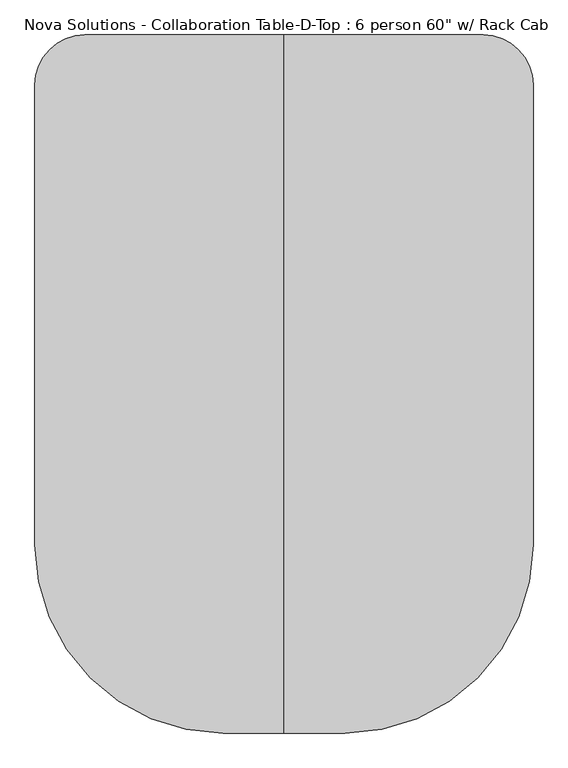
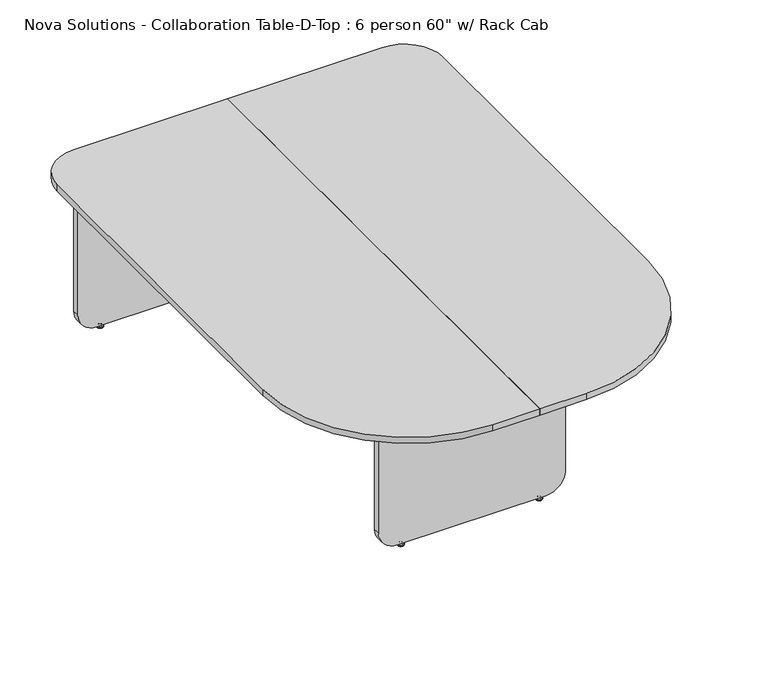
"""IFC4 building model written with IfcOpenShell, lengths in millimetres: furniture geometry."""

from ifc_helpers import new_model, si_unit, point, frame, frame_2d, origin, place, context, project, spatial, polyline, circle_curve, ellipse_curve, trimmed, segment, composite_curve, outline, extrude, source, transform, mapped, element, save
from ifc_brep_helpers import plane_surface, cylinder_surface, revolved_surface, advanced_brep


def furniture_0e6fd3ea(model_context):
    return source(origin(), model_context, "Body", "SolidModel", [
        extrude(outline(polyline([(-261.75, 1038.2), (-245.55, 1038.2), (-245.55, 510.8), (-261.75, 510.8), (-261.75, 1038.2)])), frame((0.0, 0.0, 181.85), z_axis=(0.0, 0.0, 1.0), x_axis=(1.0, 0.0, 0.0)), (0.0, 0.0, 1.0), 553.0),
        extrude(outline(polyline([(245.55, 1038.2), (261.75, 1038.2), (261.75, 510.8), (245.55, 510.8), (245.55, 1038.2)])), frame((0.0, 0.0, 181.85), z_axis=(0.0, 0.0, 1.0), x_axis=(1.0, 0.0, 0.0)), (0.0, 0.0, 1.0), 553.0),
        extrude(outline(polyline([(-136.57, 485.1), (-136.57, -576.1), (-152.77, -576.1), (-152.77, 485.1), (-136.57, 485.1)])), frame((0.0, 0.0, 181.85), z_axis=(0.0, 0.0, 1.0), x_axis=(1.0, 0.0, 0.0)), (0.0, 0.0, 1.0), 553.0),
        extrude(outline(polyline([(136.57, 485.1), (152.77, 485.1), (152.77, -576.1), (136.57, -576.1), (136.57, 485.1)])), frame((0.0, 0.0, 181.85), z_axis=(0.0, 0.0, 1.0), x_axis=(1.0, 0.0, 0.0)), (0.0, 0.0, 1.0), 553.0),
        advanced_brep(
        [(513.4578125, 1057.7276506, 11.1125), (513.4578125, 1044.3723494, 11.1125), (513.4578125, 1051.05, 11.1125), (513.4578125, 1057.7276506, 9.525), (513.4578125, 1044.3723494, 9.525), (513.4578125, 1062.9355135, 4.7748687), (513.4578125, 1039.1644865, 4.7748687), (513.4578125, 1063.7966506, 3.989419), (513.4578125, 1038.3033494, 3.989419), (513.4578125, 1063.7966506, 3.175), (513.4578125, 1038.3033494, 3.175), (513.4578125, 1062.9459119, 0.0), (513.4578125, 1039.1540881, 0.0), (513.4578125, 1051.05, 0.0)],
        [
            (0, 1, circle_curve(frame((513.4578125, 1051.05, 11.1125), z_axis=(0.0, 0.0, 1.0), x_axis=(0.0, -1.0, 0.0)), 6.6776506)),
            (1, 2),
            (2, 0),
            (1, 0, circle_curve(frame((513.4578125, 1051.05, 11.1125), z_axis=(0.0, 0.0, 1.0), x_axis=(0.0, -1.0, 0.0)), 6.6776506)),
            (3, 4, circle_curve(frame((513.4578125, 1051.05, 9.525), z_axis=(0.0, 0.0, 1.0), x_axis=(0.0, -1.0, 0.0)), 6.6776506)),
            (4, 1),
            (0, 3),
            (4, 3, circle_curve(frame((513.4578125, 1051.05, 9.525), z_axis=(0.0, 0.0, 1.0), x_axis=(0.0, -1.0, 0.0)), 6.6776506)),
            (5, 6, circle_curve(frame((513.4578125, 1051.05, 4.7748687), z_axis=(0.0, 0.0, 1.0), x_axis=(0.0, -1.0, 0.0)), 11.8855135)),
            (6, 4, circle_curve(frame((513.4578125, 1038.1179373, 11.1521822), z_axis=(1.0, 0.0, 0.0), x_axis=(0.0, 1.0, 0.0)), 6.462615)),
            (3, 5, circle_curve(frame((513.4578125, 1063.9820627, 11.1521822), z_axis=(1.0, 0.0, 0.0), x_axis=(0.0, -1.0, 0.0)), 6.462615)),
            (6, 5, circle_curve(frame((513.4578125, 1051.05, 4.7748687), z_axis=(0.0, 0.0, 1.0), x_axis=(0.0, -1.0, 0.0)), 11.8855135)),
            (7, 8, circle_curve(frame((513.4578125, 1051.05, 3.989419), z_axis=(0.0, 0.0, 1.0), x_axis=(0.0, -1.0, 0.0)), 12.7466506)),
            (8, 6, circle_curve(frame((513.4578125, 1039.3375368, 3.7203591), z_axis=(-1.0, 0.0, 0.0), x_axis=(0.0, 1.0, 0.0)), 1.0686145)),
            (5, 7, circle_curve(frame((513.4578125, 1062.7624632, 3.7203591), z_axis=(-1.0, 0.0, 0.0), x_axis=(0.0, -1.0, 0.0)), 1.0686145)),
            (8, 7, circle_curve(frame((513.4578125, 1051.05, 3.989419), z_axis=(0.0, 0.0, 1.0), x_axis=(0.0, -1.0, 0.0)), 12.7466506)),
            (9, 10, circle_curve(frame((513.4578125, 1051.05, 3.175), z_axis=(0.0, 0.0, 1.0), x_axis=(0.0, -1.0, 0.0)), 12.7466506)),
            (10, 8),
            (7, 9),
            (10, 9, circle_curve(frame((513.4578125, 1051.05, 3.175), z_axis=(0.0, 0.0, 1.0), x_axis=(0.0, -1.0, 0.0)), 12.7466506)),
            (11, 12, circle_curve(frame((513.4578125, 1051.05, 0.0), z_axis=(0.0, 0.0, 1.0), x_axis=(0.0, -1.0, 0.0)), 11.8959119)),
            (12, 10),
            (9, 11),
            (12, 11, circle_curve(frame((513.4578125, 1051.05, 0.0), z_axis=(0.0, 0.0, 1.0), x_axis=(0.0, -1.0, 0.0)), 11.8959119)),
            (13, 12),
            (11, 13),
        ],
        [
            plane_surface(frame((513.4578125, 1051.05, 11.1125), z_axis=(0.0, 0.0, 1.0), x_axis=(0.0, -1.0, 0.0))),
            cylinder_surface(frame((513.4578125, 1051.05, 43.2095994), z_axis=(0.0, 0.0, -1.0), x_axis=(0.0, -1.0, 0.0)), 6.6776506),
            revolved_surface(trimmed(ellipse_curve(frame((513.4578125, 1038.1179373, 11.1521822), z_axis=(-1.0, 0.0, 0.0), x_axis=(0.0, 1.0, 0.0)), 6.462615, 6.462615), [point((513.4578125, 1044.3723494, 9.525))], [point((513.4578125, 1039.1644865, 4.7748687))], True, "CARTESIAN"), (513.4578125, 1051.05, 43.2095994), (0.0, 0.0, -1.0)),
            revolved_surface(trimmed(ellipse_curve(frame((513.4578125, 1039.3375368, 3.7203591), z_axis=(1.0, 0.0, 0.0), x_axis=(0.0, 1.0, 0.0)), 1.0686145, 1.0686145), [point((513.4578125, 1039.1644865, 4.7748687))], [point((513.4578125, 1038.3033494, 3.989419))], True, "CARTESIAN"), (513.4578125, 1051.05, 43.2095994), (0.0, 0.0, -1.0)),
            cylinder_surface(frame((513.4578125, 1051.05, 43.2095994), z_axis=(0.0, 0.0, -1.0), x_axis=(0.0, -1.0, 0.0)), 12.7466506),
            revolved_surface(polyline([(513.4578125, 1038.3033494, 3.175), (513.4578125, 1039.1540881, 0.0)]), (513.4578125, 1051.05, 43.2095994), (0.0, 0.0, -1.0)),
            plane_surface(frame((513.4578125, 1051.05, 0.0), z_axis=(0.0, 0.0, -1.0), x_axis=(0.0, -1.0, 0.0))),
        ],
        [
            (0, [[1, 2, 3]]),
            (0, [[4, -3, -2]]),
            (1, [[5, 6, -1, 7]]),
            (1, [[8, -7, -4, -6]]),
            (2, [[9, 10, -5, 11]]),
            (2, [[12, -11, -8, -10]]),
            (3, [[13, 14, -9, 15]]),
            (3, [[16, -15, -12, -14]]),
            (4, [[17, 18, -13, 19]]),
            (4, [[20, -19, -16, -18]]),
            (5, [[21, 22, -17, 23]]),
            (5, [[24, -23, -20, -22]]),
            (6, [[25, -21, 26]]),
            (6, [[-26, -24, -25]]),
        ],
    ),
        advanced_brep(
        [(-513.4578125, 1057.7276506, 11.1125), (-513.4578125, 1044.3723494, 11.1125), (-513.4578125, 1051.05, 11.1125), (-513.4578125, 1057.7276506, 9.525), (-513.4578125, 1044.3723494, 9.525), (-513.4578125, 1062.9355135, 4.7748687), (-513.4578125, 1039.1644865, 4.7748687), (-513.4578125, 1063.7966506, 3.989419), (-513.4578125, 1038.3033494, 3.989419), (-513.4578125, 1063.7966506, 3.175), (-513.4578125, 1038.3033494, 3.175), (-513.4578125, 1062.9459119, 0.0), (-513.4578125, 1039.1540881, 0.0), (-513.4578125, 1051.05, 0.0)],
        [
            (0, 1, circle_curve(frame((-513.4578125, 1051.05, 11.1125), z_axis=(0.0, 0.0, 1.0), x_axis=(0.0, -1.0, 0.0)), 6.6776506)),
            (1, 2),
            (2, 0),
            (1, 0, circle_curve(frame((-513.4578125, 1051.05, 11.1125), z_axis=(0.0, 0.0, 1.0), x_axis=(0.0, -1.0, 0.0)), 6.6776506)),
            (3, 4, circle_curve(frame((-513.4578125, 1051.05, 9.525), z_axis=(0.0, 0.0, 1.0), x_axis=(0.0, -1.0, 0.0)), 6.6776506)),
            (4, 1),
            (0, 3),
            (4, 3, circle_curve(frame((-513.4578125, 1051.05, 9.525), z_axis=(0.0, 0.0, 1.0), x_axis=(0.0, -1.0, 0.0)), 6.6776506)),
            (5, 6, circle_curve(frame((-513.4578125, 1051.05, 4.7748687), z_axis=(0.0, 0.0, 1.0), x_axis=(0.0, -1.0, 0.0)), 11.8855135)),
            (6, 4, circle_curve(frame((-513.4578125, 1038.1179373, 11.1521822), z_axis=(1.0, 0.0, 0.0), x_axis=(0.0, 1.0, 0.0)), 6.462615)),
            (3, 5, circle_curve(frame((-513.4578125, 1063.9820627, 11.1521822), z_axis=(1.0, 0.0, 0.0), x_axis=(0.0, -1.0, 0.0)), 6.462615)),
            (6, 5, circle_curve(frame((-513.4578125, 1051.05, 4.7748687), z_axis=(0.0, 0.0, 1.0), x_axis=(0.0, -1.0, 0.0)), 11.8855135)),
            (7, 8, circle_curve(frame((-513.4578125, 1051.05, 3.989419), z_axis=(0.0, 0.0, 1.0), x_axis=(0.0, -1.0, 0.0)), 12.7466506)),
            (8, 6, circle_curve(frame((-513.4578125, 1039.3375368, 3.7203591), z_axis=(-1.0, 0.0, 0.0), x_axis=(0.0, 1.0, 0.0)), 1.0686145)),
            (5, 7, circle_curve(frame((-513.4578125, 1062.7624632, 3.7203591), z_axis=(-1.0, 0.0, 0.0), x_axis=(0.0, -1.0, 0.0)), 1.0686145)),
            (8, 7, circle_curve(frame((-513.4578125, 1051.05, 3.989419), z_axis=(0.0, 0.0, 1.0), x_axis=(0.0, -1.0, 0.0)), 12.7466506)),
            (9, 10, circle_curve(frame((-513.4578125, 1051.05, 3.175), z_axis=(0.0, 0.0, 1.0), x_axis=(0.0, -1.0, 0.0)), 12.7466506)),
            (10, 8),
            (7, 9),
            (10, 9, circle_curve(frame((-513.4578125, 1051.05, 3.175), z_axis=(0.0, 0.0, 1.0), x_axis=(0.0, -1.0, 0.0)), 12.7466506)),
            (11, 12, circle_curve(frame((-513.4578125, 1051.05, 0.0), z_axis=(0.0, 0.0, 1.0), x_axis=(0.0, -1.0, 0.0)), 11.8959119)),
            (12, 10),
            (9, 11),
            (12, 11, circle_curve(frame((-513.4578125, 1051.05, 0.0), z_axis=(0.0, 0.0, 1.0), x_axis=(0.0, -1.0, 0.0)), 11.8959119)),
            (13, 12),
            (11, 13),
        ],
        [
            plane_surface(frame((-513.4578125, 1051.05, 11.1125), z_axis=(0.0, 0.0, 1.0), x_axis=(0.0, -1.0, 0.0))),
            cylinder_surface(frame((-513.4578125, 1051.05, 43.2095994), z_axis=(0.0, 0.0, -1.0), x_axis=(0.0, -1.0, 0.0)), 6.6776506),
            revolved_surface(trimmed(ellipse_curve(frame((-513.4578125, 1038.1179373, 11.1521822), z_axis=(-1.0, 0.0, 0.0), x_axis=(0.0, 1.0, 0.0)), 6.462615, 6.462615), [point((-513.4578125, 1044.3723494, 9.525))], [point((-513.4578125, 1039.1644865, 4.7748687))], True, "CARTESIAN"), (-513.4578125, 1051.05, 43.2095994), (0.0, 0.0, -1.0)),
            revolved_surface(trimmed(ellipse_curve(frame((-513.4578125, 1039.3375368, 3.7203591), z_axis=(1.0, 0.0, 0.0), x_axis=(0.0, 1.0, 0.0)), 1.0686145, 1.0686145), [point((-513.4578125, 1039.1644865, 4.7748687))], [point((-513.4578125, 1038.3033494, 3.989419))], True, "CARTESIAN"), (-513.4578125, 1051.05, 43.2095994), (0.0, 0.0, -1.0)),
            cylinder_surface(frame((-513.4578125, 1051.05, 43.2095994), z_axis=(0.0, 0.0, -1.0), x_axis=(0.0, -1.0, 0.0)), 12.7466506),
            revolved_surface(polyline([(-513.4578125, 1038.3033494, 3.175), (-513.4578125, 1039.1540881, 0.0)]), (-513.4578125, 1051.05, 43.2095994), (0.0, 0.0, -1.0)),
            plane_surface(frame((-513.4578125, 1051.05, 0.0), z_axis=(0.0, 0.0, -1.0), x_axis=(0.0, -1.0, 0.0))),
        ],
        [
            (0, [[1, 2, 3]]),
            (0, [[4, -3, -2]]),
            (1, [[5, 6, -1, 7]]),
            (1, [[8, -7, -4, -6]]),
            (2, [[9, 10, -5, 11]]),
            (2, [[12, -11, -8, -10]]),
            (3, [[13, 14, -9, 15]]),
            (3, [[16, -15, -12, -14]]),
            (4, [[17, 18, -13, 19]]),
            (4, [[20, -19, -16, -18]]),
            (5, [[21, 22, -17, 23]]),
            (5, [[24, -23, -20, -22]]),
            (6, [[25, -21, 26]]),
            (6, [[-26, -24, -25]]),
        ],
    ),
        extrude(outline(composite_curve([segment(polyline([(734.85, 609.5), (734.85, -609.5), (90.15, -609.5)]), True, "CONTINUOUS"), segment(trimmed(circle_curve(frame_2d((90.15, -533.5)), 76.0), [point((90.15, -609.5))], [point((14.15, -533.5))], False, "CARTESIAN"), True, "CONTINUOUS"), segment(polyline([(14.15, -533.5), (14.15, 533.5)]), True, "CONTINUOUS"), segment(trimmed(circle_curve(frame_2d((90.15, 533.5)), 76.0), [point((14.15, 533.5))], [point((90.15, 609.5))], False, "CARTESIAN"), True, "CONTINUOUS"), segment(polyline([(90.15, 609.5), (734.85, 609.5)]), True, "CONTINUOUS")], self_intersect=False)), frame((0.0, 1038.2, 0.0), z_axis=(0.0, 1.0, 0.0), x_axis=(0.0, 0.0, 1.0)), (0.0, 0.0, 1.0), 25.7),
        advanced_brep(
        [(272.9578125, -582.2723494, 11.1125), (272.9578125, -595.6276506, 11.1125), (272.9578125, -588.95, 11.1125), (272.9578125, -582.2723494, 9.525), (272.9578125, -595.6276506, 9.525), (272.9578125, -577.0644865, 4.7748687), (272.9578125, -600.8355135, 4.7748687), (272.9578125, -576.2033494, 3.989419), (272.9578125, -601.6966506, 3.989419), (272.9578125, -576.2033494, 3.175), (272.9578125, -601.6966506, 3.175), (272.9578125, -577.0540881, 0.0), (272.9578125, -600.8459119, 0.0), (272.9578125, -588.95, 0.0)],
        [
            (0, 1, circle_curve(frame((272.9578125, -588.95, 11.1125), z_axis=(0.0, 0.0, 1.0), x_axis=(0.0, -1.0, 0.0)), 6.6776506)),
            (1, 2),
            (2, 0),
            (1, 0, circle_curve(frame((272.9578125, -588.95, 11.1125), z_axis=(0.0, 0.0, 1.0), x_axis=(0.0, -1.0, 0.0)), 6.6776506)),
            (3, 4, circle_curve(frame((272.9578125, -588.95, 9.525), z_axis=(0.0, 0.0, 1.0), x_axis=(0.0, -1.0, 0.0)), 6.6776506)),
            (4, 1),
            (0, 3),
            (4, 3, circle_curve(frame((272.9578125, -588.95, 9.525), z_axis=(0.0, 0.0, 1.0), x_axis=(0.0, -1.0, 0.0)), 6.6776506)),
            (5, 6, circle_curve(frame((272.9578125, -588.95, 4.7748687), z_axis=(0.0, 0.0, 1.0), x_axis=(0.0, -1.0, 0.0)), 11.8855135)),
            (6, 4, circle_curve(frame((272.9578125, -601.8820627, 11.1521822), z_axis=(1.0, 0.0, 0.0), x_axis=(0.0, 1.0, 0.0)), 6.462615)),
            (3, 5, circle_curve(frame((272.9578125, -576.0179373, 11.1521822), z_axis=(1.0, 0.0, 0.0), x_axis=(0.0, -1.0, 0.0)), 6.462615)),
            (6, 5, circle_curve(frame((272.9578125, -588.95, 4.7748687), z_axis=(0.0, 0.0, 1.0), x_axis=(0.0, -1.0, 0.0)), 11.8855135)),
            (7, 8, circle_curve(frame((272.9578125, -588.95, 3.989419), z_axis=(0.0, 0.0, 1.0), x_axis=(0.0, -1.0, 0.0)), 12.7466506)),
            (8, 6, circle_curve(frame((272.9578125, -600.6624632, 3.7203591), z_axis=(-1.0, 0.0, 0.0), x_axis=(0.0, 1.0, 0.0)), 1.0686145)),
            (5, 7, circle_curve(frame((272.9578125, -577.2375368, 3.7203591), z_axis=(-1.0, 0.0, 0.0), x_axis=(0.0, -1.0, 0.0)), 1.0686145)),
            (8, 7, circle_curve(frame((272.9578125, -588.95, 3.989419), z_axis=(0.0, 0.0, 1.0), x_axis=(0.0, -1.0, 0.0)), 12.7466506)),
            (9, 10, circle_curve(frame((272.9578125, -588.95, 3.175), z_axis=(0.0, 0.0, 1.0), x_axis=(0.0, -1.0, 0.0)), 12.7466506)),
            (10, 8),
            (7, 9),
            (10, 9, circle_curve(frame((272.9578125, -588.95, 3.175), z_axis=(0.0, 0.0, 1.0), x_axis=(0.0, -1.0, 0.0)), 12.7466506)),
            (11, 12, circle_curve(frame((272.9578125, -588.95, 0.0), z_axis=(0.0, 0.0, 1.0), x_axis=(0.0, -1.0, 0.0)), 11.8959119)),
            (12, 10),
            (9, 11),
            (12, 11, circle_curve(frame((272.9578125, -588.95, 0.0), z_axis=(0.0, 0.0, 1.0), x_axis=(0.0, -1.0, 0.0)), 11.8959119)),
            (13, 12),
            (11, 13),
        ],
        [
            plane_surface(frame((272.9578125, -588.95, 11.1125), z_axis=(0.0, 0.0, 1.0), x_axis=(0.0, -1.0, 0.0))),
            cylinder_surface(frame((272.9578125, -588.95, 43.2095994), z_axis=(0.0, 0.0, -1.0), x_axis=(0.0, -1.0, 0.0)), 6.6776506),
            revolved_surface(trimmed(ellipse_curve(frame((272.9578125, -601.8820627, 11.1521822), z_axis=(-1.0, 0.0, 0.0), x_axis=(0.0, 1.0, 0.0)), 6.462615, 6.462615), [point((272.9578125, -595.6276506, 9.525))], [point((272.9578125, -600.8355135, 4.7748687))], True, "CARTESIAN"), (272.9578125, -588.95, 43.2095994), (0.0, 0.0, -1.0)),
            revolved_surface(trimmed(ellipse_curve(frame((272.9578125, -600.6624632, 3.7203591), z_axis=(1.0, 0.0, 0.0), x_axis=(0.0, 1.0, 0.0)), 1.0686145, 1.0686145), [point((272.9578125, -600.8355135, 4.7748687))], [point((272.9578125, -601.6966506, 3.989419))], True, "CARTESIAN"), (272.9578125, -588.95, 43.2095994), (0.0, 0.0, -1.0)),
            cylinder_surface(frame((272.9578125, -588.95, 43.2095994), z_axis=(0.0, 0.0, -1.0), x_axis=(0.0, -1.0, 0.0)), 12.7466506),
            revolved_surface(polyline([(272.9578125, -601.6966506, 3.175), (272.9578125, -600.8459119, 0.0)]), (272.9578125, -588.95, 43.2095994), (0.0, 0.0, -1.0)),
            plane_surface(frame((272.9578125, -588.95, 0.0), z_axis=(0.0, 0.0, -1.0), x_axis=(0.0, -1.0, 0.0))),
        ],
        [
            (0, [[1, 2, 3]]),
            (0, [[4, -3, -2]]),
            (1, [[5, 6, -1, 7]]),
            (1, [[8, -7, -4, -6]]),
            (2, [[9, 10, -5, 11]]),
            (2, [[12, -11, -8, -10]]),
            (3, [[13, 14, -9, 15]]),
            (3, [[16, -15, -12, -14]]),
            (4, [[17, 18, -13, 19]]),
            (4, [[20, -19, -16, -18]]),
            (5, [[21, 22, -17, 23]]),
            (5, [[24, -23, -20, -22]]),
            (6, [[25, -21, 26]]),
            (6, [[-26, -24, -25]]),
        ],
    ),
        advanced_brep(
        [(-272.9578125, -582.2723494, 11.1125), (-272.9578125, -595.6276506, 11.1125), (-272.9578125, -588.95, 11.1125), (-272.9578125, -582.2723494, 9.525), (-272.9578125, -595.6276506, 9.525), (-272.9578125, -577.0644865, 4.7748687), (-272.9578125, -600.8355135, 4.7748687), (-272.9578125, -576.2033494, 3.989419), (-272.9578125, -601.6966506, 3.989419), (-272.9578125, -576.2033494, 3.175), (-272.9578125, -601.6966506, 3.175), (-272.9578125, -577.0540881, 0.0), (-272.9578125, -600.8459119, 0.0), (-272.9578125, -588.95, 0.0)],
        [
            (0, 1, circle_curve(frame((-272.9578125, -588.95, 11.1125), z_axis=(0.0, 0.0, 1.0), x_axis=(0.0, -1.0, 0.0)), 6.6776506)),
            (1, 2),
            (2, 0),
            (1, 0, circle_curve(frame((-272.9578125, -588.95, 11.1125), z_axis=(0.0, 0.0, 1.0), x_axis=(0.0, -1.0, 0.0)), 6.6776506)),
            (3, 4, circle_curve(frame((-272.9578125, -588.95, 9.525), z_axis=(0.0, 0.0, 1.0), x_axis=(0.0, -1.0, 0.0)), 6.6776506)),
            (4, 1),
            (0, 3),
            (4, 3, circle_curve(frame((-272.9578125, -588.95, 9.525), z_axis=(0.0, 0.0, 1.0), x_axis=(0.0, -1.0, 0.0)), 6.6776506)),
            (5, 6, circle_curve(frame((-272.9578125, -588.95, 4.7748687), z_axis=(0.0, 0.0, 1.0), x_axis=(0.0, -1.0, 0.0)), 11.8855135)),
            (6, 4, circle_curve(frame((-272.9578125, -601.8820627, 11.1521822), z_axis=(1.0, 0.0, 0.0), x_axis=(0.0, 1.0, 0.0)), 6.462615)),
            (3, 5, circle_curve(frame((-272.9578125, -576.0179373, 11.1521822), z_axis=(1.0, 0.0, 0.0), x_axis=(0.0, -1.0, 0.0)), 6.462615)),
            (6, 5, circle_curve(frame((-272.9578125, -588.95, 4.7748687), z_axis=(0.0, 0.0, 1.0), x_axis=(0.0, -1.0, 0.0)), 11.8855135)),
            (7, 8, circle_curve(frame((-272.9578125, -588.95, 3.989419), z_axis=(0.0, 0.0, 1.0), x_axis=(0.0, -1.0, 0.0)), 12.7466506)),
            (8, 6, circle_curve(frame((-272.9578125, -600.6624632, 3.7203591), z_axis=(-1.0, 0.0, 0.0), x_axis=(0.0, 1.0, 0.0)), 1.0686145)),
            (5, 7, circle_curve(frame((-272.9578125, -577.2375368, 3.7203591), z_axis=(-1.0, 0.0, 0.0), x_axis=(0.0, -1.0, 0.0)), 1.0686145)),
            (8, 7, circle_curve(frame((-272.9578125, -588.95, 3.989419), z_axis=(0.0, 0.0, 1.0), x_axis=(0.0, -1.0, 0.0)), 12.7466506)),
            (9, 10, circle_curve(frame((-272.9578125, -588.95, 3.175), z_axis=(0.0, 0.0, 1.0), x_axis=(0.0, -1.0, 0.0)), 12.7466506)),
            (10, 8),
            (7, 9),
            (10, 9, circle_curve(frame((-272.9578125, -588.95, 3.175), z_axis=(0.0, 0.0, 1.0), x_axis=(0.0, -1.0, 0.0)), 12.7466506)),
            (11, 12, circle_curve(frame((-272.9578125, -588.95, 0.0), z_axis=(0.0, 0.0, 1.0), x_axis=(0.0, -1.0, 0.0)), 11.8959119)),
            (12, 10),
            (9, 11),
            (12, 11, circle_curve(frame((-272.9578125, -588.95, 0.0), z_axis=(0.0, 0.0, 1.0), x_axis=(0.0, -1.0, 0.0)), 11.8959119)),
            (13, 12),
            (11, 13),
        ],
        [
            plane_surface(frame((-272.9578125, -588.95, 11.1125), z_axis=(0.0, 0.0, 1.0), x_axis=(0.0, -1.0, 0.0))),
            cylinder_surface(frame((-272.9578125, -588.95, 43.2095994), z_axis=(0.0, 0.0, -1.0), x_axis=(0.0, -1.0, 0.0)), 6.6776506),
            revolved_surface(trimmed(ellipse_curve(frame((-272.9578125, -601.8820627, 11.1521822), z_axis=(-1.0, 0.0, 0.0), x_axis=(0.0, 1.0, 0.0)), 6.462615, 6.462615), [point((-272.9578125, -595.6276506, 9.525))], [point((-272.9578125, -600.8355135, 4.7748687))], True, "CARTESIAN"), (-272.9578125, -588.95, 43.2095994), (0.0, 0.0, -1.0)),
            revolved_surface(trimmed(ellipse_curve(frame((-272.9578125, -600.6624632, 3.7203591), z_axis=(1.0, 0.0, 0.0), x_axis=(0.0, 1.0, 0.0)), 1.0686145, 1.0686145), [point((-272.9578125, -600.8355135, 4.7748687))], [point((-272.9578125, -601.6966506, 3.989419))], True, "CARTESIAN"), (-272.9578125, -588.95, 43.2095994), (0.0, 0.0, -1.0)),
            cylinder_surface(frame((-272.9578125, -588.95, 43.2095994), z_axis=(0.0, 0.0, -1.0), x_axis=(0.0, -1.0, 0.0)), 12.7466506),
            revolved_surface(polyline([(-272.9578125, -601.6966506, 3.175), (-272.9578125, -600.8459119, 0.0)]), (-272.9578125, -588.95, 43.2095994), (0.0, 0.0, -1.0)),
            plane_surface(frame((-272.9578125, -588.95, 0.0), z_axis=(0.0, 0.0, -1.0), x_axis=(0.0, -1.0, 0.0))),
        ],
        [
            (0, [[1, 2, 3]]),
            (0, [[4, -3, -2]]),
            (1, [[5, 6, -1, 7]]),
            (1, [[8, -7, -4, -6]]),
            (2, [[9, 10, -5, 11]]),
            (2, [[12, -11, -8, -10]]),
            (3, [[13, 14, -9, 15]]),
            (3, [[16, -15, -12, -14]]),
            (4, [[17, 18, -13, 19]]),
            (4, [[20, -19, -16, -18]]),
            (5, [[21, 22, -17, 23]]),
            (5, [[24, -23, -20, -22]]),
            (6, [[25, -21, 26]]),
            (6, [[-26, -24, -25]]),
        ],
    ),
        extrude(outline(composite_curve([segment(polyline([(734.85, 369.0), (734.85, -369.0), (90.15, -369.0)]), True, "CONTINUOUS"), segment(trimmed(circle_curve(frame_2d((90.15, -293.0)), 76.0), [point((90.15, -369.0))], [point((14.15, -293.0))], False, "CARTESIAN"), True, "CONTINUOUS"), segment(polyline([(14.15, -293.0), (14.15, 293.0)]), True, "CONTINUOUS"), segment(trimmed(circle_curve(frame_2d((90.15, 293.0)), 76.0), [point((14.15, 293.0))], [point((90.15, 369.0))], False, "CARTESIAN"), True, "CONTINUOUS"), segment(polyline([(90.15, 369.0), (734.85, 369.0)]), True, "CONTINUOUS")], self_intersect=False)), frame((0.0, -601.8, 0.0), z_axis=(0.0, 1.0, 0.0), x_axis=(0.0, 0.0, 1.0)), (0.0, 0.0, 1.0), 25.7),
        extrude(outline(polyline([(-261.75, 510.8), (261.75, 510.8), (261.75, 485.1), (-261.75, 485.1), (-261.75, 510.8)])), frame((0.0, 0.0, 181.85), z_axis=(0.0, 0.0, 1.0), x_axis=(1.0, 0.0, 0.0)), (0.0, 0.0, 1.0), 553.0),
        extrude(outline(composite_curve([segment(trimmed(circle_curve(frame_2d((187.0, -491.8)), 575.0), [point((762.0, -491.8))], [point((187.0, -1066.8))], False, "CARTESIAN"), True, "CONTINUOUS"), segment(polyline([(187.0, -1066.8), (0.0, -1066.8), (0.0, 1066.8), (609.6, 1066.8)]), True, "CONTINUOUS"), segment(trimmed(circle_curve(frame_2d((609.6, 914.4)), 152.4), [point((609.6, 1066.8))], [point((762.0, 914.4))], False, "CARTESIAN"), True, "CONTINUOUS"), segment(polyline([(762.0, 914.4), (762.0, -491.8)]), True, "CONTINUOUS")], self_intersect=False)), frame((0.0, 0.0, 734.85), z_axis=(0.0, 0.0, 1.0), x_axis=(1.0, 0.0, 0.0)), (0.0, 0.0, 1.0), 25.7),
        extrude(outline(composite_curve([segment(polyline([(0.0, 1066.8), (0.0, -1066.8), (-187.0, -1066.8)]), True, "CONTINUOUS"), segment(trimmed(circle_curve(frame_2d((-187.0, -491.8)), 575.0), [point((-187.0, -1066.8))], [point((-762.0, -491.8))], False, "CARTESIAN"), True, "CONTINUOUS"), segment(polyline([(-762.0, -491.8), (-762.0, 914.4)]), True, "CONTINUOUS"), segment(trimmed(circle_curve(frame_2d((-609.6, 914.4)), 152.4), [point((-762.0, 914.4))], [point((-609.6, 1066.8))], False, "CARTESIAN"), True, "CONTINUOUS"), segment(polyline([(-609.6, 1066.8), (0.0, 1066.8)]), True, "CONTINUOUS")], self_intersect=False)), frame((0.0, 0.0, 734.85), z_axis=(0.0, 0.0, 1.0), x_axis=(1.0, 0.0, 0.0)), (0.0, 0.0, 1.0), 25.7),
    ])


if __name__ == "__main__":
    model = new_model("IFC4")
    model_context = context("Model", 3, world=origin())
    ifc_project = project(units=[si_unit("LENGTHUNIT", "METRE", prefix="MILLI")], contexts=[model_context])
    site = spatial("IfcSite", under=ifc_project)
    building = spatial("IfcBuilding", under=site)
    placement = place(None, origin())
    furniture_shape = furniture_0e6fd3ea(model_context)
    element("IfcFurniture", 1, ObjectType="Nova Solutions - Collaboration Table-D-Top : 6 person 60\" w/ Rack Cab", at=placement, inside=building, context=model_context, shape_type="MappedRepresentation", body=[
        mapped(furniture_shape, transform((0.0, 0.0, 0.0), x_axis=(1.0, 0.0, 0.0), y_axis=(0.0, 1.0, 0.0), z_axis=(0.0, 0.0, 1.0))),
    ])
    save(model, "model.ifc")
